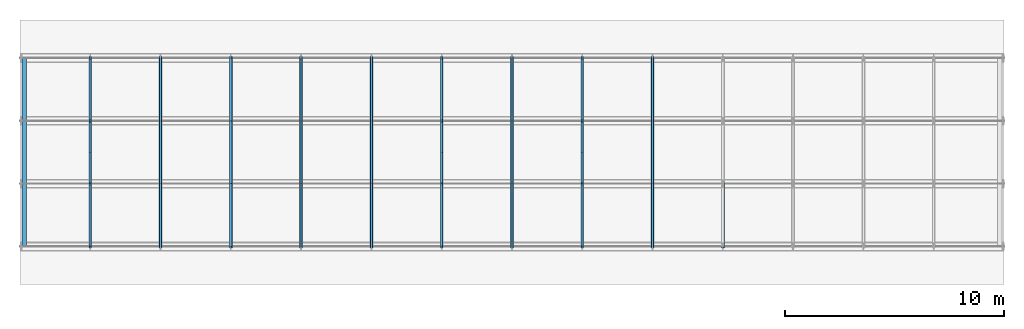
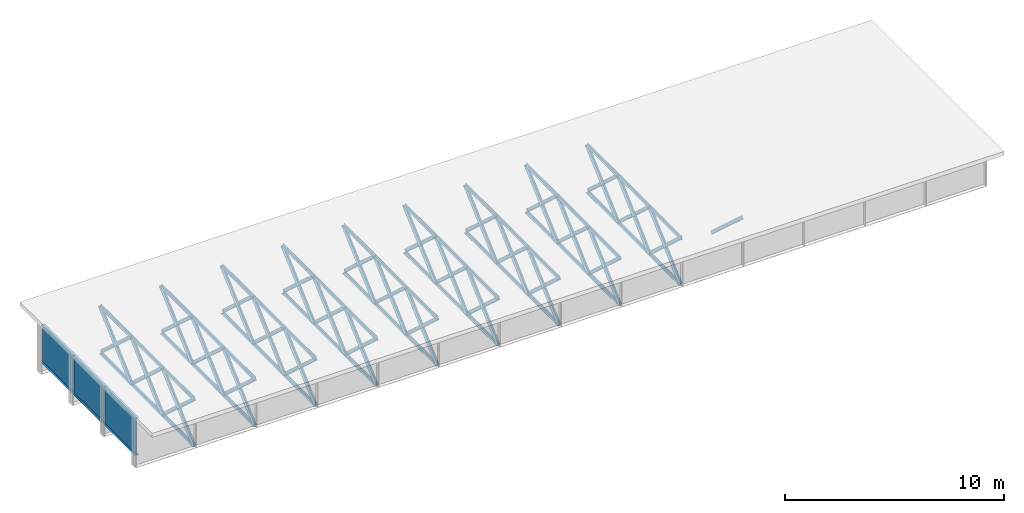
# One storey, part 1 of 13: 112 members.
"""IFC4 building model written with IfcOpenShell, lengths in metres."""

from ifc_helpers import new_model, si_unit, frame, origin, origin_with_axes, origin_2d_with_axis, place, context, subcontext, project, spatial, i_section, l_section, extrude, element, save


model = new_model("IFC4")

# Units and contexts
model_context = context("Model", 3, precision=1e-05, world=origin())
body_context = subcontext(model_context, "Body", "Model", "MODEL_VIEW")
ifc_project = project(units=[si_unit("LENGTHUNIT", "METRE"), si_unit("AREAUNIT", "SQUARE_METRE"), si_unit("VOLUMEUNIT", "CUBIC_METRE"), si_unit("PLANEANGLEUNIT", "RADIAN")], contexts=[model_context])

# Site, building, storey
site_placement = place(None, origin_with_axes())
site = spatial("IfcSite", under=ifc_project, at=site_placement, Name="Default Site")
building_placement = place(site_placement, origin_with_axes())
building = spatial("IfcBuilding", under=site, at=building_placement, Name="Bridge Structure")
storey_placement = place(building_placement, origin_with_axes())
storey = spatial("IfcBuildingStorey", under=building, at=storey_placement, Name="Superstructure")

# Members
for number, where, z_axis, x_axis, name in (
    (1, (0.2, -4.3125, 0.2615), (0.0, 1.0, 0.0), (-1.0, 0.0, 0.0), "End Diaphragm"),
    (2, (0.2, -1.4375, 0.2615), (0.0, 1.0, 0.0), (-1.0, 0.0, 0.0), "End Diaphragm"),
    (3, (0.2, 1.4375, 0.2615), (0.0, 1.0, 0.0), (-1.0, 0.0, 0.0), "End Diaphragm"),
):
    element("IfcMember", number, at=place(storey_placement, frame(where, z_axis=z_axis, x_axis=x_axis)), inside=storey, Name=name, context=body_context, shape_type="SweptSolid", body=[
        extrude(i_section(OverallWidth=0.21, OverallDepth=2.091, WebThickness=0.018000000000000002, FlangeThickness=0.012, at=origin_2d_with_axis()), origin_with_axes(), (0.0, 0.0, 1.0), 2.875),
    ])
for number, where, z_axis, x_axis, name in (
    (4, (3.2142857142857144, -4.3125, 1.307), (0.0, 0.7398934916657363, -0.6727240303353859), (-1.0, 0.0, 0.0), "Diagonal Brace"),
    (5, (3.2142857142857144, -4.3125, -1.307), (0.0, 0.7398934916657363, 0.6727240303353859), (-1.0, 0.0, 0.0), "Diagonal Brace"),
):
    element("IfcMember", number, at=place(storey_placement, frame(where, z_axis=z_axis, x_axis=x_axis)), inside=storey, Name=name, context=body_context, shape_type="SweptSolid", body=[
        extrude(l_section(Depth=0.196, Width=0.13, Thickness=0.008, at=origin_2d_with_axis()), origin_with_axes(), (0.0, 0.0, 1.0), 3.88569440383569),
    ])
for number, where, z_axis, x_axis, name in (
    (6, (3.2142857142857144, -4.3125, -1.307), (0.0, 1.0, 0.0), (-1.0, 0.0, 0.0), "Bottom Chord"),
    (7, (3.2142857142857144, -4.3125, 1.307), (0.0, 1.0, 0.0), (-1.0, 0.0, 0.0), "Top Chord"),
):
    element("IfcMember", number, at=place(storey_placement, frame(where, z_axis=z_axis, x_axis=x_axis)), inside=storey, Name=name, context=body_context, shape_type="SweptSolid", body=[
        extrude(l_section(Depth=0.169, Width=0.10400000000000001, Thickness=0.008, at=origin_2d_with_axis()), origin_with_axes(), (0.0, 0.0, 1.0), 2.875),
    ])
for number, where, z_axis, x_axis, name in (
    (8, (3.2142857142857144, -1.4375, 1.307), (0.0, 0.7398934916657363, -0.6727240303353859), (-1.0, 0.0, 0.0), "Diagonal Brace"),
    (9, (3.2142857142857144, -1.4375, -1.307), (0.0, 0.7398934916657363, 0.6727240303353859), (-1.0, 0.0, 0.0), "Diagonal Brace"),
):
    element("IfcMember", number, at=place(storey_placement, frame(where, z_axis=z_axis, x_axis=x_axis)), inside=storey, Name=name, context=body_context, shape_type="SweptSolid", body=[
        extrude(l_section(Depth=0.196, Width=0.13, Thickness=0.008, at=origin_2d_with_axis()), origin_with_axes(), (0.0, 0.0, 1.0), 3.88569440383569),
    ])
for number, where, z_axis, x_axis, name in (
    (10, (3.2142857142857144, -1.4375, -1.307), (0.0, 1.0, 0.0), (-1.0, 0.0, 0.0), "Bottom Chord"),
    (11, (3.2142857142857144, -1.4375, 1.307), (0.0, 1.0, 0.0), (-1.0, 0.0, 0.0), "Top Chord"),
):
    element("IfcMember", number, at=place(storey_placement, frame(where, z_axis=z_axis, x_axis=x_axis)), inside=storey, Name=name, context=body_context, shape_type="SweptSolid", body=[
        extrude(l_section(Depth=0.169, Width=0.10400000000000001, Thickness=0.008, at=origin_2d_with_axis()), origin_with_axes(), (0.0, 0.0, 1.0), 2.875),
    ])
for number, where, z_axis, x_axis, name in (
    (12, (3.2142857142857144, 1.4375, 1.307), (0.0, 0.7398934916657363, -0.6727240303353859), (-1.0, 0.0, 0.0), "Diagonal Brace"),
    (13, (3.2142857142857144, 1.4375, -1.307), (0.0, 0.7398934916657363, 0.6727240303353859), (-1.0, 0.0, 0.0), "Diagonal Brace"),
):
    element("IfcMember", number, at=place(storey_placement, frame(where, z_axis=z_axis, x_axis=x_axis)), inside=storey, Name=name, context=body_context, shape_type="SweptSolid", body=[
        extrude(l_section(Depth=0.196, Width=0.13, Thickness=0.008, at=origin_2d_with_axis()), origin_with_axes(), (0.0, 0.0, 1.0), 3.88569440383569),
    ])
for number, where, z_axis, x_axis, name in (
    (14, (3.2142857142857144, 1.4375, -1.307), (0.0, 1.0, 0.0), (-1.0, 0.0, 0.0), "Bottom Chord"),
    (15, (3.2142857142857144, 1.4375, 1.307), (0.0, 1.0, 0.0), (-1.0, 0.0, 0.0), "Top Chord"),
):
    element("IfcMember", number, at=place(storey_placement, frame(where, z_axis=z_axis, x_axis=x_axis)), inside=storey, Name=name, context=body_context, shape_type="SweptSolid", body=[
        extrude(l_section(Depth=0.169, Width=0.10400000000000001, Thickness=0.008, at=origin_2d_with_axis()), origin_with_axes(), (0.0, 0.0, 1.0), 2.875),
    ])
for number, where, z_axis, x_axis, name in (
    (16, (6.428571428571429, -4.3125, 1.307), (0.0, 0.7398934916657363, -0.6727240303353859), (-1.0, 0.0, 0.0), "Diagonal Brace"),
    (17, (6.428571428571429, -4.3125, -1.307), (0.0, 0.7398934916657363, 0.6727240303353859), (-1.0, 0.0, 0.0), "Diagonal Brace"),
):
    element("IfcMember", number, at=place(storey_placement, frame(where, z_axis=z_axis, x_axis=x_axis)), inside=storey, Name=name, context=body_context, shape_type="SweptSolid", body=[
        extrude(l_section(Depth=0.196, Width=0.13, Thickness=0.008, at=origin_2d_with_axis()), origin_with_axes(), (0.0, 0.0, 1.0), 3.88569440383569),
    ])
for number, where, z_axis, x_axis, name in (
    (18, (6.428571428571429, -4.3125, -1.307), (0.0, 1.0, 0.0), (-1.0, 0.0, 0.0), "Bottom Chord"),
    (19, (6.428571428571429, -4.3125, 1.307), (0.0, 1.0, 0.0), (-1.0, 0.0, 0.0), "Top Chord"),
):
    element("IfcMember", number, at=place(storey_placement, frame(where, z_axis=z_axis, x_axis=x_axis)), inside=storey, Name=name, context=body_context, shape_type="SweptSolid", body=[
        extrude(l_section(Depth=0.169, Width=0.10400000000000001, Thickness=0.008, at=origin_2d_with_axis()), origin_with_axes(), (0.0, 0.0, 1.0), 2.875),
    ])
for number, where, z_axis, x_axis, name in (
    (20, (6.428571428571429, -1.4375, 1.307), (0.0, 0.7398934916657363, -0.6727240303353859), (-1.0, 0.0, 0.0), "Diagonal Brace"),
    (21, (6.428571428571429, -1.4375, -1.307), (0.0, 0.7398934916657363, 0.6727240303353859), (-1.0, 0.0, 0.0), "Diagonal Brace"),
):
    element("IfcMember", number, at=place(storey_placement, frame(where, z_axis=z_axis, x_axis=x_axis)), inside=storey, Name=name, context=body_context, shape_type="SweptSolid", body=[
        extrude(l_section(Depth=0.196, Width=0.13, Thickness=0.008, at=origin_2d_with_axis()), origin_with_axes(), (0.0, 0.0, 1.0), 3.88569440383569),
    ])
for number, where, z_axis, x_axis, name in (
    (22, (6.428571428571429, -1.4375, -1.307), (0.0, 1.0, 0.0), (-1.0, 0.0, 0.0), "Bottom Chord"),
    (23, (6.428571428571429, -1.4375, 1.307), (0.0, 1.0, 0.0), (-1.0, 0.0, 0.0), "Top Chord"),
):
    element("IfcMember", number, at=place(storey_placement, frame(where, z_axis=z_axis, x_axis=x_axis)), inside=storey, Name=name, context=body_context, shape_type="SweptSolid", body=[
        extrude(l_section(Depth=0.169, Width=0.10400000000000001, Thickness=0.008, at=origin_2d_with_axis()), origin_with_axes(), (0.0, 0.0, 1.0), 2.875),
    ])
for number, where, z_axis, x_axis, name in (
    (24, (6.428571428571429, 1.4375, 1.307), (0.0, 0.7398934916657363, -0.6727240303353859), (-1.0, 0.0, 0.0), "Diagonal Brace"),
    (25, (6.428571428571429, 1.4375, -1.307), (0.0, 0.7398934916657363, 0.6727240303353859), (-1.0, 0.0, 0.0), "Diagonal Brace"),
):
    element("IfcMember", number, at=place(storey_placement, frame(where, z_axis=z_axis, x_axis=x_axis)), inside=storey, Name=name, context=body_context, shape_type="SweptSolid", body=[
        extrude(l_section(Depth=0.196, Width=0.13, Thickness=0.008, at=origin_2d_with_axis()), origin_with_axes(), (0.0, 0.0, 1.0), 3.88569440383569),
    ])
for number, where, z_axis, x_axis, name in (
    (26, (6.428571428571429, 1.4375, -1.307), (0.0, 1.0, 0.0), (-1.0, 0.0, 0.0), "Bottom Chord"),
    (27, (6.428571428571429, 1.4375, 1.307), (0.0, 1.0, 0.0), (-1.0, 0.0, 0.0), "Top Chord"),
):
    element("IfcMember", number, at=place(storey_placement, frame(where, z_axis=z_axis, x_axis=x_axis)), inside=storey, Name=name, context=body_context, shape_type="SweptSolid", body=[
        extrude(l_section(Depth=0.169, Width=0.10400000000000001, Thickness=0.008, at=origin_2d_with_axis()), origin_with_axes(), (0.0, 0.0, 1.0), 2.875),
    ])
for number, where, z_axis, x_axis, name in (
    (28, (9.642857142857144, -4.3125, 1.307), (0.0, 0.7398934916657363, -0.6727240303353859), (-1.0, 0.0, 0.0), "Diagonal Brace"),
    (29, (9.642857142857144, -4.3125, -1.307), (0.0, 0.7398934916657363, 0.6727240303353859), (-1.0, 0.0, 0.0), "Diagonal Brace"),
):
    element("IfcMember", number, at=place(storey_placement, frame(where, z_axis=z_axis, x_axis=x_axis)), inside=storey, Name=name, context=body_context, shape_type="SweptSolid", body=[
        extrude(l_section(Depth=0.196, Width=0.13, Thickness=0.008, at=origin_2d_with_axis()), origin_with_axes(), (0.0, 0.0, 1.0), 3.88569440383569),
    ])
for number, where, z_axis, x_axis, name in (
    (30, (9.642857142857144, -4.3125, -1.307), (0.0, 1.0, 0.0), (-1.0, 0.0, 0.0), "Bottom Chord"),
    (31, (9.642857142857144, -4.3125, 1.307), (0.0, 1.0, 0.0), (-1.0, 0.0, 0.0), "Top Chord"),
):
    element("IfcMember", number, at=place(storey_placement, frame(where, z_axis=z_axis, x_axis=x_axis)), inside=storey, Name=name, context=body_context, shape_type="SweptSolid", body=[
        extrude(l_section(Depth=0.169, Width=0.10400000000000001, Thickness=0.008, at=origin_2d_with_axis()), origin_with_axes(), (0.0, 0.0, 1.0), 2.875),
    ])
for number, where, z_axis, x_axis, name in (
    (32, (9.642857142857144, -1.4375, 1.307), (0.0, 0.7398934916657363, -0.6727240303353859), (-1.0, 0.0, 0.0), "Diagonal Brace"),
    (33, (9.642857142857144, -1.4375, -1.307), (0.0, 0.7398934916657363, 0.6727240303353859), (-1.0, 0.0, 0.0), "Diagonal Brace"),
):
    element("IfcMember", number, at=place(storey_placement, frame(where, z_axis=z_axis, x_axis=x_axis)), inside=storey, Name=name, context=body_context, shape_type="SweptSolid", body=[
        extrude(l_section(Depth=0.196, Width=0.13, Thickness=0.008, at=origin_2d_with_axis()), origin_with_axes(), (0.0, 0.0, 1.0), 3.88569440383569),
    ])
for number, where, z_axis, x_axis, name in (
    (34, (9.642857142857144, -1.4375, -1.307), (0.0, 1.0, 0.0), (-1.0, 0.0, 0.0), "Bottom Chord"),
    (35, (9.642857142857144, -1.4375, 1.307), (0.0, 1.0, 0.0), (-1.0, 0.0, 0.0), "Top Chord"),
):
    element("IfcMember", number, at=place(storey_placement, frame(where, z_axis=z_axis, x_axis=x_axis)), inside=storey, Name=name, context=body_context, shape_type="SweptSolid", body=[
        extrude(l_section(Depth=0.169, Width=0.10400000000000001, Thickness=0.008, at=origin_2d_with_axis()), origin_with_axes(), (0.0, 0.0, 1.0), 2.875),
    ])
for number, where, z_axis, x_axis, name in (
    (36, (9.642857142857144, 1.4375, 1.307), (0.0, 0.7398934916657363, -0.6727240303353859), (-1.0, 0.0, 0.0), "Diagonal Brace"),
    (37, (9.642857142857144, 1.4375, -1.307), (0.0, 0.7398934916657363, 0.6727240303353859), (-1.0, 0.0, 0.0), "Diagonal Brace"),
):
    element("IfcMember", number, at=place(storey_placement, frame(where, z_axis=z_axis, x_axis=x_axis)), inside=storey, Name=name, context=body_context, shape_type="SweptSolid", body=[
        extrude(l_section(Depth=0.196, Width=0.13, Thickness=0.008, at=origin_2d_with_axis()), origin_with_axes(), (0.0, 0.0, 1.0), 3.88569440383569),
    ])
for number, where, z_axis, x_axis, name in (
    (38, (9.642857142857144, 1.4375, -1.307), (0.0, 1.0, 0.0), (-1.0, 0.0, 0.0), "Bottom Chord"),
    (39, (9.642857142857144, 1.4375, 1.307), (0.0, 1.0, 0.0), (-1.0, 0.0, 0.0), "Top Chord"),
):
    element("IfcMember", number, at=place(storey_placement, frame(where, z_axis=z_axis, x_axis=x_axis)), inside=storey, Name=name, context=body_context, shape_type="SweptSolid", body=[
        extrude(l_section(Depth=0.169, Width=0.10400000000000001, Thickness=0.008, at=origin_2d_with_axis()), origin_with_axes(), (0.0, 0.0, 1.0), 2.875),
    ])
for number, where, z_axis, x_axis, name in (
    (40, (12.857142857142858, -4.3125, 1.307), (0.0, 0.7398934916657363, -0.6727240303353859), (-1.0, 0.0, 0.0), "Diagonal Brace"),
    (41, (12.857142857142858, -4.3125, -1.307), (0.0, 0.7398934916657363, 0.6727240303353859), (-1.0, 0.0, 0.0), "Diagonal Brace"),
):
    element("IfcMember", number, at=place(storey_placement, frame(where, z_axis=z_axis, x_axis=x_axis)), inside=storey, Name=name, context=body_context, shape_type="SweptSolid", body=[
        extrude(l_section(Depth=0.196, Width=0.13, Thickness=0.008, at=origin_2d_with_axis()), origin_with_axes(), (0.0, 0.0, 1.0), 3.88569440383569),
    ])
for number, where, z_axis, x_axis, name in (
    (42, (12.857142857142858, -4.3125, -1.307), (0.0, 1.0, 0.0), (-1.0, 0.0, 0.0), "Bottom Chord"),
    (43, (12.857142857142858, -4.3125, 1.307), (0.0, 1.0, 0.0), (-1.0, 0.0, 0.0), "Top Chord"),
):
    element("IfcMember", number, at=place(storey_placement, frame(where, z_axis=z_axis, x_axis=x_axis)), inside=storey, Name=name, context=body_context, shape_type="SweptSolid", body=[
        extrude(l_section(Depth=0.169, Width=0.10400000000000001, Thickness=0.008, at=origin_2d_with_axis()), origin_with_axes(), (0.0, 0.0, 1.0), 2.875),
    ])
for number, where, z_axis, x_axis, name in (
    (44, (12.857142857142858, -1.4375, 1.307), (0.0, 0.7398934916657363, -0.6727240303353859), (-1.0, 0.0, 0.0), "Diagonal Brace"),
    (45, (12.857142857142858, -1.4375, -1.307), (0.0, 0.7398934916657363, 0.6727240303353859), (-1.0, 0.0, 0.0), "Diagonal Brace"),
):
    element("IfcMember", number, at=place(storey_placement, frame(where, z_axis=z_axis, x_axis=x_axis)), inside=storey, Name=name, context=body_context, shape_type="SweptSolid", body=[
        extrude(l_section(Depth=0.196, Width=0.13, Thickness=0.008, at=origin_2d_with_axis()), origin_with_axes(), (0.0, 0.0, 1.0), 3.88569440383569),
    ])
for number, where, z_axis, x_axis, name in (
    (46, (12.857142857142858, -1.4375, -1.307), (0.0, 1.0, 0.0), (-1.0, 0.0, 0.0), "Bottom Chord"),
    (47, (12.857142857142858, -1.4375, 1.307), (0.0, 1.0, 0.0), (-1.0, 0.0, 0.0), "Top Chord"),
):
    element("IfcMember", number, at=place(storey_placement, frame(where, z_axis=z_axis, x_axis=x_axis)), inside=storey, Name=name, context=body_context, shape_type="SweptSolid", body=[
        extrude(l_section(Depth=0.169, Width=0.10400000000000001, Thickness=0.008, at=origin_2d_with_axis()), origin_with_axes(), (0.0, 0.0, 1.0), 2.875),
    ])
for number, where, z_axis, x_axis, name in (
    (48, (12.857142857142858, 1.4375, 1.307), (0.0, 0.7398934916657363, -0.6727240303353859), (-1.0, 0.0, 0.0), "Diagonal Brace"),
    (49, (12.857142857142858, 1.4375, -1.307), (0.0, 0.7398934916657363, 0.6727240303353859), (-1.0, 0.0, 0.0), "Diagonal Brace"),
):
    element("IfcMember", number, at=place(storey_placement, frame(where, z_axis=z_axis, x_axis=x_axis)), inside=storey, Name=name, context=body_context, shape_type="SweptSolid", body=[
        extrude(l_section(Depth=0.196, Width=0.13, Thickness=0.008, at=origin_2d_with_axis()), origin_with_axes(), (0.0, 0.0, 1.0), 3.88569440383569),
    ])
for number, where, z_axis, x_axis, name in (
    (50, (12.857142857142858, 1.4375, -1.307), (0.0, 1.0, 0.0), (-1.0, 0.0, 0.0), "Bottom Chord"),
    (51, (12.857142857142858, 1.4375, 1.307), (0.0, 1.0, 0.0), (-1.0, 0.0, 0.0), "Top Chord"),
):
    element("IfcMember", number, at=place(storey_placement, frame(where, z_axis=z_axis, x_axis=x_axis)), inside=storey, Name=name, context=body_context, shape_type="SweptSolid", body=[
        extrude(l_section(Depth=0.169, Width=0.10400000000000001, Thickness=0.008, at=origin_2d_with_axis()), origin_with_axes(), (0.0, 0.0, 1.0), 2.875),
    ])
for number, where, z_axis, x_axis, name in (
    (52, (16.07142857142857, -4.3125, 1.307), (0.0, 0.7398934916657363, -0.6727240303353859), (-1.0, 0.0, 0.0), "Diagonal Brace"),
    (53, (16.07142857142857, -4.3125, -1.307), (0.0, 0.7398934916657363, 0.6727240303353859), (-1.0, 0.0, 0.0), "Diagonal Brace"),
):
    element("IfcMember", number, at=place(storey_placement, frame(where, z_axis=z_axis, x_axis=x_axis)), inside=storey, Name=name, context=body_context, shape_type="SweptSolid", body=[
        extrude(l_section(Depth=0.196, Width=0.13, Thickness=0.008, at=origin_2d_with_axis()), origin_with_axes(), (0.0, 0.0, 1.0), 3.88569440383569),
    ])
for number, where, z_axis, x_axis, name in (
    (54, (16.07142857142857, -4.3125, -1.307), (0.0, 1.0, 0.0), (-1.0, 0.0, 0.0), "Bottom Chord"),
    (55, (16.07142857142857, -4.3125, 1.307), (0.0, 1.0, 0.0), (-1.0, 0.0, 0.0), "Top Chord"),
):
    element("IfcMember", number, at=place(storey_placement, frame(where, z_axis=z_axis, x_axis=x_axis)), inside=storey, Name=name, context=body_context, shape_type="SweptSolid", body=[
        extrude(l_section(Depth=0.169, Width=0.10400000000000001, Thickness=0.008, at=origin_2d_with_axis()), origin_with_axes(), (0.0, 0.0, 1.0), 2.875),
    ])
for number, where, z_axis, x_axis, name in (
    (56, (16.07142857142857, -1.4375, 1.307), (0.0, 0.7398934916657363, -0.6727240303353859), (-1.0, 0.0, 0.0), "Diagonal Brace"),
    (57, (16.07142857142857, -1.4375, -1.307), (0.0, 0.7398934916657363, 0.6727240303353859), (-1.0, 0.0, 0.0), "Diagonal Brace"),
):
    element("IfcMember", number, at=place(storey_placement, frame(where, z_axis=z_axis, x_axis=x_axis)), inside=storey, Name=name, context=body_context, shape_type="SweptSolid", body=[
        extrude(l_section(Depth=0.196, Width=0.13, Thickness=0.008, at=origin_2d_with_axis()), origin_with_axes(), (0.0, 0.0, 1.0), 3.88569440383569),
    ])
for number, where, z_axis, x_axis, name in (
    (58, (16.07142857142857, -1.4375, -1.307), (0.0, 1.0, 0.0), (-1.0, 0.0, 0.0), "Bottom Chord"),
    (59, (16.07142857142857, -1.4375, 1.307), (0.0, 1.0, 0.0), (-1.0, 0.0, 0.0), "Top Chord"),
):
    element("IfcMember", number, at=place(storey_placement, frame(where, z_axis=z_axis, x_axis=x_axis)), inside=storey, Name=name, context=body_context, shape_type="SweptSolid", body=[
        extrude(l_section(Depth=0.169, Width=0.10400000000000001, Thickness=0.008, at=origin_2d_with_axis()), origin_with_axes(), (0.0, 0.0, 1.0), 2.875),
    ])
for number, where, z_axis, x_axis, name in (
    (60, (16.07142857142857, 1.4375, 1.307), (0.0, 0.7398934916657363, -0.6727240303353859), (-1.0, 0.0, 0.0), "Diagonal Brace"),
    (61, (16.07142857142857, 1.4375, -1.307), (0.0, 0.7398934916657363, 0.6727240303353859), (-1.0, 0.0, 0.0), "Diagonal Brace"),
):
    element("IfcMember", number, at=place(storey_placement, frame(where, z_axis=z_axis, x_axis=x_axis)), inside=storey, Name=name, context=body_context, shape_type="SweptSolid", body=[
        extrude(l_section(Depth=0.196, Width=0.13, Thickness=0.008, at=origin_2d_with_axis()), origin_with_axes(), (0.0, 0.0, 1.0), 3.88569440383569),
    ])
for number, where, z_axis, x_axis, name in (
    (62, (16.07142857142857, 1.4375, -1.307), (0.0, 1.0, 0.0), (-1.0, 0.0, 0.0), "Bottom Chord"),
    (63, (16.07142857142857, 1.4375, 1.307), (0.0, 1.0, 0.0), (-1.0, 0.0, 0.0), "Top Chord"),
):
    element("IfcMember", number, at=place(storey_placement, frame(where, z_axis=z_axis, x_axis=x_axis)), inside=storey, Name=name, context=body_context, shape_type="SweptSolid", body=[
        extrude(l_section(Depth=0.169, Width=0.10400000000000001, Thickness=0.008, at=origin_2d_with_axis()), origin_with_axes(), (0.0, 0.0, 1.0), 2.875),
    ])
for number, where, z_axis, x_axis, name in (
    (64, (19.28571428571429, -4.3125, 1.307), (0.0, 0.7398934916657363, -0.6727240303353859), (-1.0, 0.0, 0.0), "Diagonal Brace"),
    (65, (19.28571428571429, -4.3125, -1.307), (0.0, 0.7398934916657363, 0.6727240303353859), (-1.0, 0.0, 0.0), "Diagonal Brace"),
):
    element("IfcMember", number, at=place(storey_placement, frame(where, z_axis=z_axis, x_axis=x_axis)), inside=storey, Name=name, context=body_context, shape_type="SweptSolid", body=[
        extrude(l_section(Depth=0.196, Width=0.13, Thickness=0.008, at=origin_2d_with_axis()), origin_with_axes(), (0.0, 0.0, 1.0), 3.88569440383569),
    ])
for number, where, z_axis, x_axis, name in (
    (66, (19.28571428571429, -4.3125, -1.307), (0.0, 1.0, 0.0), (-1.0, 0.0, 0.0), "Bottom Chord"),
    (67, (19.28571428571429, -4.3125, 1.307), (0.0, 1.0, 0.0), (-1.0, 0.0, 0.0), "Top Chord"),
):
    element("IfcMember", number, at=place(storey_placement, frame(where, z_axis=z_axis, x_axis=x_axis)), inside=storey, Name=name, context=body_context, shape_type="SweptSolid", body=[
        extrude(l_section(Depth=0.169, Width=0.10400000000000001, Thickness=0.008, at=origin_2d_with_axis()), origin_with_axes(), (0.0, 0.0, 1.0), 2.875),
    ])
for number, where, z_axis, x_axis, name in (
    (68, (19.28571428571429, -1.4375, 1.307), (0.0, 0.7398934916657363, -0.6727240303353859), (-1.0, 0.0, 0.0), "Diagonal Brace"),
    (69, (19.28571428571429, -1.4375, -1.307), (0.0, 0.7398934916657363, 0.6727240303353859), (-1.0, 0.0, 0.0), "Diagonal Brace"),
):
    element("IfcMember", number, at=place(storey_placement, frame(where, z_axis=z_axis, x_axis=x_axis)), inside=storey, Name=name, context=body_context, shape_type="SweptSolid", body=[
        extrude(l_section(Depth=0.196, Width=0.13, Thickness=0.008, at=origin_2d_with_axis()), origin_with_axes(), (0.0, 0.0, 1.0), 3.88569440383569),
    ])
for number, where, z_axis, x_axis, name in (
    (70, (19.28571428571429, -1.4375, -1.307), (0.0, 1.0, 0.0), (-1.0, 0.0, 0.0), "Bottom Chord"),
    (71, (19.28571428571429, -1.4375, 1.307), (0.0, 1.0, 0.0), (-1.0, 0.0, 0.0), "Top Chord"),
):
    element("IfcMember", number, at=place(storey_placement, frame(where, z_axis=z_axis, x_axis=x_axis)), inside=storey, Name=name, context=body_context, shape_type="SweptSolid", body=[
        extrude(l_section(Depth=0.169, Width=0.10400000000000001, Thickness=0.008, at=origin_2d_with_axis()), origin_with_axes(), (0.0, 0.0, 1.0), 2.875),
    ])
for number, where, z_axis, x_axis, name in (
    (72, (19.28571428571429, 1.4375, 1.307), (0.0, 0.7398934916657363, -0.6727240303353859), (-1.0, 0.0, 0.0), "Diagonal Brace"),
    (73, (19.28571428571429, 1.4375, -1.307), (0.0, 0.7398934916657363, 0.6727240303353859), (-1.0, 0.0, 0.0), "Diagonal Brace"),
):
    element("IfcMember", number, at=place(storey_placement, frame(where, z_axis=z_axis, x_axis=x_axis)), inside=storey, Name=name, context=body_context, shape_type="SweptSolid", body=[
        extrude(l_section(Depth=0.196, Width=0.13, Thickness=0.008, at=origin_2d_with_axis()), origin_with_axes(), (0.0, 0.0, 1.0), 3.88569440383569),
    ])
for number, where, z_axis, x_axis, name in (
    (74, (19.28571428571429, 1.4375, -1.307), (0.0, 1.0, 0.0), (-1.0, 0.0, 0.0), "Bottom Chord"),
    (75, (19.28571428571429, 1.4375, 1.307), (0.0, 1.0, 0.0), (-1.0, 0.0, 0.0), "Top Chord"),
):
    element("IfcMember", number, at=place(storey_placement, frame(where, z_axis=z_axis, x_axis=x_axis)), inside=storey, Name=name, context=body_context, shape_type="SweptSolid", body=[
        extrude(l_section(Depth=0.169, Width=0.10400000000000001, Thickness=0.008, at=origin_2d_with_axis()), origin_with_axes(), (0.0, 0.0, 1.0), 2.875),
    ])
for number, where, z_axis, x_axis, name in (
    (76, (22.5, -4.3125, 1.307), (0.0, 0.7398934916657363, -0.6727240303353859), (-1.0, 0.0, 0.0), "Diagonal Brace"),
    (77, (22.5, -4.3125, -1.307), (0.0, 0.7398934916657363, 0.6727240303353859), (-1.0, 0.0, 0.0), "Diagonal Brace"),
):
    element("IfcMember", number, at=place(storey_placement, frame(where, z_axis=z_axis, x_axis=x_axis)), inside=storey, Name=name, context=body_context, shape_type="SweptSolid", body=[
        extrude(l_section(Depth=0.196, Width=0.13, Thickness=0.008, at=origin_2d_with_axis()), origin_with_axes(), (0.0, 0.0, 1.0), 3.88569440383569),
    ])
for number, where, z_axis, x_axis, name in (
    (78, (22.5, -4.3125, -1.307), (0.0, 1.0, 0.0), (-1.0, 0.0, 0.0), "Bottom Chord"),
    (79, (22.5, -4.3125, 1.307), (0.0, 1.0, 0.0), (-1.0, 0.0, 0.0), "Top Chord"),
):
    element("IfcMember", number, at=place(storey_placement, frame(where, z_axis=z_axis, x_axis=x_axis)), inside=storey, Name=name, context=body_context, shape_type="SweptSolid", body=[
        extrude(l_section(Depth=0.169, Width=0.10400000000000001, Thickness=0.008, at=origin_2d_with_axis()), origin_with_axes(), (0.0, 0.0, 1.0), 2.875),
    ])
for number, where, z_axis, x_axis, name in (
    (80, (22.5, -1.4375, 1.307), (0.0, 0.7398934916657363, -0.6727240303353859), (-1.0, 0.0, 0.0), "Diagonal Brace"),
    (81, (22.5, -1.4375, -1.307), (0.0, 0.7398934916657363, 0.6727240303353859), (-1.0, 0.0, 0.0), "Diagonal Brace"),
):
    element("IfcMember", number, at=place(storey_placement, frame(where, z_axis=z_axis, x_axis=x_axis)), inside=storey, Name=name, context=body_context, shape_type="SweptSolid", body=[
        extrude(l_section(Depth=0.196, Width=0.13, Thickness=0.008, at=origin_2d_with_axis()), origin_with_axes(), (0.0, 0.0, 1.0), 3.88569440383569),
    ])
for number, where, z_axis, x_axis, name in (
    (82, (22.5, -1.4375, -1.307), (0.0, 1.0, 0.0), (-1.0, 0.0, 0.0), "Bottom Chord"),
    (83, (22.5, -1.4375, 1.307), (0.0, 1.0, 0.0), (-1.0, 0.0, 0.0), "Top Chord"),
):
    element("IfcMember", number, at=place(storey_placement, frame(where, z_axis=z_axis, x_axis=x_axis)), inside=storey, Name=name, context=body_context, shape_type="SweptSolid", body=[
        extrude(l_section(Depth=0.169, Width=0.10400000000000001, Thickness=0.008, at=origin_2d_with_axis()), origin_with_axes(), (0.0, 0.0, 1.0), 2.875),
    ])
for number, where, z_axis, x_axis, name in (
    (84, (22.5, 1.4375, 1.307), (0.0, 0.7398934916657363, -0.6727240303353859), (-1.0, 0.0, 0.0), "Diagonal Brace"),
    (85, (22.5, 1.4375, -1.307), (0.0, 0.7398934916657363, 0.6727240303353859), (-1.0, 0.0, 0.0), "Diagonal Brace"),
):
    element("IfcMember", number, at=place(storey_placement, frame(where, z_axis=z_axis, x_axis=x_axis)), inside=storey, Name=name, context=body_context, shape_type="SweptSolid", body=[
        extrude(l_section(Depth=0.196, Width=0.13, Thickness=0.008, at=origin_2d_with_axis()), origin_with_axes(), (0.0, 0.0, 1.0), 3.88569440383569),
    ])
for number, where, z_axis, x_axis, name in (
    (86, (22.5, 1.4375, -1.307), (0.0, 1.0, 0.0), (-1.0, 0.0, 0.0), "Bottom Chord"),
    (87, (22.5, 1.4375, 1.307), (0.0, 1.0, 0.0), (-1.0, 0.0, 0.0), "Top Chord"),
):
    element("IfcMember", number, at=place(storey_placement, frame(where, z_axis=z_axis, x_axis=x_axis)), inside=storey, Name=name, context=body_context, shape_type="SweptSolid", body=[
        extrude(l_section(Depth=0.169, Width=0.10400000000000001, Thickness=0.008, at=origin_2d_with_axis()), origin_with_axes(), (0.0, 0.0, 1.0), 2.875),
    ])
for number, where, z_axis, x_axis, name in (
    (88, (25.714285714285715, -4.3125, 1.307), (0.0, 0.7398934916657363, -0.6727240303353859), (-1.0, 0.0, 0.0), "Diagonal Brace"),
    (89, (25.714285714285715, -4.3125, -1.307), (0.0, 0.7398934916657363, 0.6727240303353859), (-1.0, 0.0, 0.0), "Diagonal Brace"),
):
    element("IfcMember", number, at=place(storey_placement, frame(where, z_axis=z_axis, x_axis=x_axis)), inside=storey, Name=name, context=body_context, shape_type="SweptSolid", body=[
        extrude(l_section(Depth=0.196, Width=0.13, Thickness=0.008, at=origin_2d_with_axis()), origin_with_axes(), (0.0, 0.0, 1.0), 3.88569440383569),
    ])
for number, where, z_axis, x_axis, name in (
    (90, (25.714285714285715, -4.3125, -1.307), (0.0, 1.0, 0.0), (-1.0, 0.0, 0.0), "Bottom Chord"),
    (91, (25.714285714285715, -4.3125, 1.307), (0.0, 1.0, 0.0), (-1.0, 0.0, 0.0), "Top Chord"),
):
    element("IfcMember", number, at=place(storey_placement, frame(where, z_axis=z_axis, x_axis=x_axis)), inside=storey, Name=name, context=body_context, shape_type="SweptSolid", body=[
        extrude(l_section(Depth=0.169, Width=0.10400000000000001, Thickness=0.008, at=origin_2d_with_axis()), origin_with_axes(), (0.0, 0.0, 1.0), 2.875),
    ])
for number, where, z_axis, x_axis, name in (
    (92, (25.714285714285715, -1.4375, 1.307), (0.0, 0.7398934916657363, -0.6727240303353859), (-1.0, 0.0, 0.0), "Diagonal Brace"),
    (93, (25.714285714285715, -1.4375, -1.307), (0.0, 0.7398934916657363, 0.6727240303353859), (-1.0, 0.0, 0.0), "Diagonal Brace"),
):
    element("IfcMember", number, at=place(storey_placement, frame(where, z_axis=z_axis, x_axis=x_axis)), inside=storey, Name=name, context=body_context, shape_type="SweptSolid", body=[
        extrude(l_section(Depth=0.196, Width=0.13, Thickness=0.008, at=origin_2d_with_axis()), origin_with_axes(), (0.0, 0.0, 1.0), 3.88569440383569),
    ])
for number, where, z_axis, x_axis, name in (
    (94, (25.714285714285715, -1.4375, -1.307), (0.0, 1.0, 0.0), (-1.0, 0.0, 0.0), "Bottom Chord"),
    (95, (25.714285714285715, -1.4375, 1.307), (0.0, 1.0, 0.0), (-1.0, 0.0, 0.0), "Top Chord"),
):
    element("IfcMember", number, at=place(storey_placement, frame(where, z_axis=z_axis, x_axis=x_axis)), inside=storey, Name=name, context=body_context, shape_type="SweptSolid", body=[
        extrude(l_section(Depth=0.169, Width=0.10400000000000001, Thickness=0.008, at=origin_2d_with_axis()), origin_with_axes(), (0.0, 0.0, 1.0), 2.875),
    ])
for number, where, z_axis, x_axis, name in (
    (96, (25.714285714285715, 1.4375, 1.307), (0.0, 0.7398934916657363, -0.6727240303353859), (-1.0, 0.0, 0.0), "Diagonal Brace"),
    (97, (25.714285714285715, 1.4375, -1.307), (0.0, 0.7398934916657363, 0.6727240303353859), (-1.0, 0.0, 0.0), "Diagonal Brace"),
):
    element("IfcMember", number, at=place(storey_placement, frame(where, z_axis=z_axis, x_axis=x_axis)), inside=storey, Name=name, context=body_context, shape_type="SweptSolid", body=[
        extrude(l_section(Depth=0.196, Width=0.13, Thickness=0.008, at=origin_2d_with_axis()), origin_with_axes(), (0.0, 0.0, 1.0), 3.88569440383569),
    ])
for number, where, z_axis, x_axis, name in (
    (98, (25.714285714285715, 1.4375, -1.307), (0.0, 1.0, 0.0), (-1.0, 0.0, 0.0), "Bottom Chord"),
    (99, (25.714285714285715, 1.4375, 1.307), (0.0, 1.0, 0.0), (-1.0, 0.0, 0.0), "Top Chord"),
):
    element("IfcMember", number, at=place(storey_placement, frame(where, z_axis=z_axis, x_axis=x_axis)), inside=storey, Name=name, context=body_context, shape_type="SweptSolid", body=[
        extrude(l_section(Depth=0.169, Width=0.10400000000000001, Thickness=0.008, at=origin_2d_with_axis()), origin_with_axes(), (0.0, 0.0, 1.0), 2.875),
    ])
for number, where, z_axis, x_axis, name in (
    (100, (28.928571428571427, -4.3125, 1.307), (0.0, 0.7398934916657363, -0.6727240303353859), (-1.0, 0.0, 0.0), "Diagonal Brace"),
    (101, (28.928571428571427, -4.3125, -1.307), (0.0, 0.7398934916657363, 0.6727240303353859), (-1.0, 0.0, 0.0), "Diagonal Brace"),
):
    element("IfcMember", number, at=place(storey_placement, frame(where, z_axis=z_axis, x_axis=x_axis)), inside=storey, Name=name, context=body_context, shape_type="SweptSolid", body=[
        extrude(l_section(Depth=0.196, Width=0.13, Thickness=0.008, at=origin_2d_with_axis()), origin_with_axes(), (0.0, 0.0, 1.0), 3.88569440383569),
    ])
for number, where, z_axis, x_axis, name in (
    (102, (28.928571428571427, -4.3125, -1.307), (0.0, 1.0, 0.0), (-1.0, 0.0, 0.0), "Bottom Chord"),
    (103, (28.928571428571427, -4.3125, 1.307), (0.0, 1.0, 0.0), (-1.0, 0.0, 0.0), "Top Chord"),
):
    element("IfcMember", number, at=place(storey_placement, frame(where, z_axis=z_axis, x_axis=x_axis)), inside=storey, Name=name, context=body_context, shape_type="SweptSolid", body=[
        extrude(l_section(Depth=0.169, Width=0.10400000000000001, Thickness=0.008, at=origin_2d_with_axis()), origin_with_axes(), (0.0, 0.0, 1.0), 2.875),
    ])
for number, where, z_axis, x_axis, name in (
    (104, (28.928571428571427, -1.4375, 1.307), (0.0, 0.7398934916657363, -0.6727240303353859), (-1.0, 0.0, 0.0), "Diagonal Brace"),
    (105, (28.928571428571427, -1.4375, -1.307), (0.0, 0.7398934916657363, 0.6727240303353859), (-1.0, 0.0, 0.0), "Diagonal Brace"),
):
    element("IfcMember", number, at=place(storey_placement, frame(where, z_axis=z_axis, x_axis=x_axis)), inside=storey, Name=name, context=body_context, shape_type="SweptSolid", body=[
        extrude(l_section(Depth=0.196, Width=0.13, Thickness=0.008, at=origin_2d_with_axis()), origin_with_axes(), (0.0, 0.0, 1.0), 3.88569440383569),
    ])
for number, where, z_axis, x_axis, name in (
    (106, (28.928571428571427, -1.4375, -1.307), (0.0, 1.0, 0.0), (-1.0, 0.0, 0.0), "Bottom Chord"),
    (107, (28.928571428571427, -1.4375, 1.307), (0.0, 1.0, 0.0), (-1.0, 0.0, 0.0), "Top Chord"),
):
    element("IfcMember", number, at=place(storey_placement, frame(where, z_axis=z_axis, x_axis=x_axis)), inside=storey, Name=name, context=body_context, shape_type="SweptSolid", body=[
        extrude(l_section(Depth=0.169, Width=0.10400000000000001, Thickness=0.008, at=origin_2d_with_axis()), origin_with_axes(), (0.0, 0.0, 1.0), 2.875),
    ])
for number, where, z_axis, x_axis, name in (
    (108, (28.928571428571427, 1.4375, 1.307), (0.0, 0.7398934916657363, -0.6727240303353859), (-1.0, 0.0, 0.0), "Diagonal Brace"),
    (109, (28.928571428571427, 1.4375, -1.307), (0.0, 0.7398934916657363, 0.6727240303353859), (-1.0, 0.0, 0.0), "Diagonal Brace"),
):
    element("IfcMember", number, at=place(storey_placement, frame(where, z_axis=z_axis, x_axis=x_axis)), inside=storey, Name=name, context=body_context, shape_type="SweptSolid", body=[
        extrude(l_section(Depth=0.196, Width=0.13, Thickness=0.008, at=origin_2d_with_axis()), origin_with_axes(), (0.0, 0.0, 1.0), 3.88569440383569),
    ])
for number, where, z_axis, x_axis, name in (
    (110, (28.928571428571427, 1.4375, -1.307), (0.0, 1.0, 0.0), (-1.0, 0.0, 0.0), "Bottom Chord"),
    (111, (28.928571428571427, 1.4375, 1.307), (0.0, 1.0, 0.0), (-1.0, 0.0, 0.0), "Top Chord"),
):
    element("IfcMember", number, at=place(storey_placement, frame(where, z_axis=z_axis, x_axis=x_axis)), inside=storey, Name=name, context=body_context, shape_type="SweptSolid", body=[
        extrude(l_section(Depth=0.169, Width=0.10400000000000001, Thickness=0.008, at=origin_2d_with_axis()), origin_with_axes(), (0.0, 0.0, 1.0), 2.875),
    ])
member_placement = place(storey_placement, frame((32.14285714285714, -4.3125, 1.307), z_axis=(0.0, 0.7398934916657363, -0.6727240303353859), x_axis=(-1.0, 0.0, 0.0)))
element("IfcMember", 112, at=member_placement, inside=storey, Name="Diagonal Brace", context=body_context, shape_type="SweptSolid", body=[
    extrude(l_section(Depth=0.196, Width=0.13, Thickness=0.008, at=origin_2d_with_axis()), origin_with_axes(), (0.0, 0.0, 1.0), 3.88569440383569),
])

save(model, "model.ifc")
